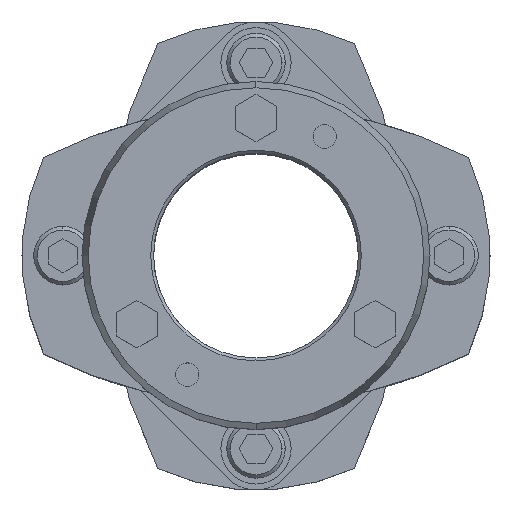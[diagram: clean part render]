
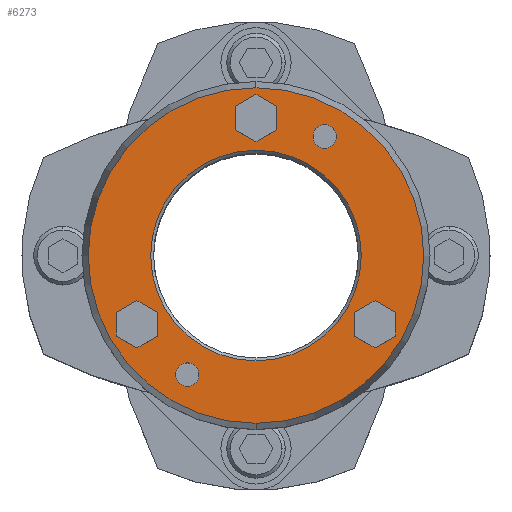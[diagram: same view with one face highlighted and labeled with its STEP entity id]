
A CAD part, top view. The second image highlights one B-rep face of the part: STEP entity #6273.
In plain terms, the highlighted planar face has unit normal (0, 0, 1).
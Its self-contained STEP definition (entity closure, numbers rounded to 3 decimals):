
#1695=CARTESIAN_POINT('',(0.,18.,45.25));
#1696=VERTEX_POINT('',#1695);
#1712=CARTESIAN_POINT('',(0.,-18.,45.25));
#1713=VERTEX_POINT('',#1712);
#1720=CARTESIAN_POINT('',(0.,0.,45.25));
#1721=DIRECTION('',(0.0,0.0,1.0));
#1722=DIRECTION('',(0.,1.0,0.0));
#1723=AXIS2_PLACEMENT_3D('',#1720,#1721,#1722);
#1724=CIRCLE('',#1723,18.0);
#1725=EDGE_CURVE('',#1713,#1696,#1724,.T.);
#1883=CARTESIAN_POINT('',(0.,-28.678,45.25));
#1884=VERTEX_POINT('',#1883);
#1891=CARTESIAN_POINT('',(0.,28.678,45.25));
#1892=VERTEX_POINT('',#1891);
#1893=CARTESIAN_POINT('',(0.,0.,45.25));
#1894=DIRECTION('',(0.0,0.0,-1.0));
#1895=DIRECTION('',(0.,-1.0,0.0));
#1896=AXIS2_PLACEMENT_3D('',#1893,#1894,#1895);
#1897=CIRCLE('',#1896,28.678);
#1898=EDGE_CURVE('',#1884,#1892,#1897,.T.);
#2011=CARTESIAN_POINT('',(-11.75,-18.352,45.25));
#2012=VERTEX_POINT('',#2011);
#2028=CARTESIAN_POINT('',(-11.75,-22.352,45.25));
#2029=VERTEX_POINT('',#2028);
#2036=CARTESIAN_POINT('',(-11.75,-20.352,45.25));
#2037=DIRECTION('',(0.0,0.0,-1.0));
#2038=DIRECTION('',(0.,1.0,0.0));
#2039=AXIS2_PLACEMENT_3D('',#2036,#2037,#2038);
#2040=CIRCLE('',#2039,2.0);
#2041=EDGE_CURVE('',#2012,#2029,#2040,.T.);
#2053=CARTESIAN_POINT('',(11.75,22.352,45.25));
#2054=VERTEX_POINT('',#2053);
#2070=CARTESIAN_POINT('',(11.75,18.352,45.25));
#2071=VERTEX_POINT('',#2070);
#2078=CARTESIAN_POINT('',(11.75,20.352,45.25));
#2079=DIRECTION('',(0.0,0.0,-1.0));
#2080=DIRECTION('',(0.,1.0,0.0));
#2081=AXIS2_PLACEMENT_3D('',#2078,#2079,#2080);
#2082=CIRCLE('',#2081,2.0);
#2083=EDGE_CURVE('',#2054,#2071,#2082,.T.);
#5286=CARTESIAN_POINT('',(11.75,20.352,45.25));
#5287=DIRECTION('',(0.0,0.0,-1.0));
#5288=DIRECTION('',(0.,1.0,0.0));
#5289=AXIS2_PLACEMENT_3D('',#5286,#5287,#5288);
#5290=CIRCLE('',#5289,2.0);
#5291=EDGE_CURVE('',#2071,#2054,#5290,.T.);
#5320=CARTESIAN_POINT('',(-11.75,-20.352,45.25));
#5321=DIRECTION('',(0.0,0.0,-1.0));
#5322=DIRECTION('',(0.,1.0,0.0));
#5323=AXIS2_PLACEMENT_3D('',#5320,#5321,#5322);
#5324=CIRCLE('',#5323,2.0);
#5325=EDGE_CURVE('',#2029,#2012,#5324,.T.);
#5363=CARTESIAN_POINT('',(0.,27.541,45.25));
#5364=VERTEX_POINT('',#5363);
#5371=CARTESIAN_POINT('',(-3.5,25.521,45.25));
#5372=VERTEX_POINT('',#5371);
#5373=CARTESIAN_POINT('',(-3.5,25.521,45.25));
#5374=DIRECTION('',(0.866,0.5,0.0));
#5375=VECTOR('',#5374,4.041);
#5376=LINE('',#5373,#5375);
#5377=EDGE_CURVE('',#5372,#5364,#5376,.T.);
#5401=CARTESIAN_POINT('',(3.5,25.521,45.25));
#5402=VERTEX_POINT('',#5401);
#5409=CARTESIAN_POINT('',(0.,27.541,45.25));
#5410=DIRECTION('',(0.866,-0.5,0.0));
#5411=VECTOR('',#5410,4.041);
#5412=LINE('',#5409,#5411);
#5413=EDGE_CURVE('',#5364,#5402,#5412,.T.);
#5432=CARTESIAN_POINT('',(3.5,21.479,45.25));
#5433=VERTEX_POINT('',#5432);
#5440=CARTESIAN_POINT('',(3.5,25.521,45.25));
#5441=DIRECTION('',(0.,-1.0,0.0));
#5442=VECTOR('',#5441,4.041);
#5443=LINE('',#5440,#5442);
#5444=EDGE_CURVE('',#5402,#5433,#5443,.T.);
#5463=CARTESIAN_POINT('',(0.,19.459,45.25));
#5464=VERTEX_POINT('',#5463);
#5471=CARTESIAN_POINT('',(3.5,21.479,45.25));
#5472=DIRECTION('',(-0.866,-0.5,0.0));
#5473=VECTOR('',#5472,4.041);
#5474=LINE('',#5471,#5473);
#5475=EDGE_CURVE('',#5433,#5464,#5474,.T.);
#5494=CARTESIAN_POINT('',(-3.5,21.479,45.25));
#5495=VERTEX_POINT('',#5494);
#5502=CARTESIAN_POINT('',(0.,19.459,45.25));
#5503=DIRECTION('',(-0.866,0.5,0.0));
#5504=VECTOR('',#5503,4.041);
#5505=LINE('',#5502,#5504);
#5506=EDGE_CURVE('',#5464,#5495,#5505,.T.);
#5524=CARTESIAN_POINT('',(-3.5,21.479,45.25));
#5525=DIRECTION('',(0.,1.0,0.0));
#5526=VECTOR('',#5525,4.041);
#5527=LINE('',#5524,#5526);
#5528=EDGE_CURVE('',#5495,#5372,#5527,.T.);
#5563=CARTESIAN_POINT('',(20.352,-7.709,45.25));
#5564=VERTEX_POINT('',#5563);
#5571=CARTESIAN_POINT('',(16.852,-9.729,45.25));
#5572=VERTEX_POINT('',#5571);
#5573=CARTESIAN_POINT('',(16.852,-9.729,45.25));
#5574=DIRECTION('',(0.866,0.5,0.0));
#5575=VECTOR('',#5574,4.041);
#5576=LINE('',#5573,#5575);
#5577=EDGE_CURVE('',#5572,#5564,#5576,.T.);
#5601=CARTESIAN_POINT('',(23.852,-9.729,45.25));
#5602=VERTEX_POINT('',#5601);
#5609=CARTESIAN_POINT('',(20.352,-7.709,45.25));
#5610=DIRECTION('',(0.866,-0.5,0.0));
#5611=VECTOR('',#5610,4.041);
#5612=LINE('',#5609,#5611);
#5613=EDGE_CURVE('',#5564,#5602,#5612,.T.);
#5632=CARTESIAN_POINT('',(23.852,-13.771,45.25));
#5633=VERTEX_POINT('',#5632);
#5640=CARTESIAN_POINT('',(23.852,-9.729,45.25));
#5641=DIRECTION('',(0.,-1.0,0.0));
#5642=VECTOR('',#5641,4.041);
#5643=LINE('',#5640,#5642);
#5644=EDGE_CURVE('',#5602,#5633,#5643,.T.);
#5663=CARTESIAN_POINT('',(20.352,-15.791,45.25));
#5664=VERTEX_POINT('',#5663);
#5671=CARTESIAN_POINT('',(23.852,-13.771,45.25));
#5672=DIRECTION('',(-0.866,-0.5,0.0));
#5673=VECTOR('',#5672,4.041);
#5674=LINE('',#5671,#5673);
#5675=EDGE_CURVE('',#5633,#5664,#5674,.T.);
#5694=CARTESIAN_POINT('',(16.852,-13.771,45.25));
#5695=VERTEX_POINT('',#5694);
#5702=CARTESIAN_POINT('',(20.352,-15.791,45.25));
#5703=DIRECTION('',(-0.866,0.5,0.0));
#5704=VECTOR('',#5703,4.041);
#5705=LINE('',#5702,#5704);
#5706=EDGE_CURVE('',#5664,#5695,#5705,.T.);
#5724=CARTESIAN_POINT('',(16.852,-13.771,45.25));
#5725=DIRECTION('',(0.,1.0,0.0));
#5726=VECTOR('',#5725,4.041);
#5727=LINE('',#5724,#5726);
#5728=EDGE_CURVE('',#5695,#5572,#5727,.T.);
#5763=CARTESIAN_POINT('',(-20.352,-7.709,45.25));
#5764=VERTEX_POINT('',#5763);
#5771=CARTESIAN_POINT('',(-23.852,-9.729,45.25));
#5772=VERTEX_POINT('',#5771);
#5773=CARTESIAN_POINT('',(-23.852,-9.729,45.25));
#5774=DIRECTION('',(0.866,0.5,0.0));
#5775=VECTOR('',#5774,4.041);
#5776=LINE('',#5773,#5775);
#5777=EDGE_CURVE('',#5772,#5764,#5776,.T.);
#5801=CARTESIAN_POINT('',(-16.852,-9.729,45.25));
#5802=VERTEX_POINT('',#5801);
#5809=CARTESIAN_POINT('',(-20.352,-7.709,45.25));
#5810=DIRECTION('',(0.866,-0.5,0.0));
#5811=VECTOR('',#5810,4.041);
#5812=LINE('',#5809,#5811);
#5813=EDGE_CURVE('',#5764,#5802,#5812,.T.);
#5832=CARTESIAN_POINT('',(-16.852,-13.771,45.25));
#5833=VERTEX_POINT('',#5832);
#5840=CARTESIAN_POINT('',(-16.852,-9.729,45.25));
#5841=DIRECTION('',(0.,-1.0,0.0));
#5842=VECTOR('',#5841,4.041);
#5843=LINE('',#5840,#5842);
#5844=EDGE_CURVE('',#5802,#5833,#5843,.T.);
#5863=CARTESIAN_POINT('',(-20.352,-15.791,45.25));
#5864=VERTEX_POINT('',#5863);
#5871=CARTESIAN_POINT('',(-16.852,-13.771,45.25));
#5872=DIRECTION('',(-0.866,-0.5,0.0));
#5873=VECTOR('',#5872,4.041);
#5874=LINE('',#5871,#5873);
#5875=EDGE_CURVE('',#5833,#5864,#5874,.T.);
#5894=CARTESIAN_POINT('',(-23.852,-13.771,45.25));
#5895=VERTEX_POINT('',#5894);
#5902=CARTESIAN_POINT('',(-20.352,-15.791,45.25));
#5903=DIRECTION('',(-0.866,0.5,0.0));
#5904=VECTOR('',#5903,4.041);
#5905=LINE('',#5902,#5904);
#5906=EDGE_CURVE('',#5864,#5895,#5905,.T.);
#5924=CARTESIAN_POINT('',(-23.852,-13.771,45.25));
#5925=DIRECTION('',(0.,1.0,0.0));
#5926=VECTOR('',#5925,4.041);
#5927=LINE('',#5924,#5926);
#5928=EDGE_CURVE('',#5895,#5772,#5927,.T.);
#6212=CARTESIAN_POINT('',(0.,0.,45.25));
#6213=DIRECTION('',(0.0,0.0,-1.0));
#6214=DIRECTION('',(0.,-1.0,0.0));
#6215=AXIS2_PLACEMENT_3D('',#6212,#6213,#6214);
#6216=CIRCLE('',#6215,28.678);
#6217=EDGE_CURVE('',#1892,#1884,#6216,.T.);
#6222=CARTESIAN_POINT('',(0.,2.364,45.25));
#6223=DIRECTION('',(0.0,0.0,1.0));
#6224=DIRECTION('',(0.,1.0,0.0));
#6225=AXIS2_PLACEMENT_3D('',#6222,#6223,#6224);
#6226=PLANE('',#6225);
#6227=ORIENTED_EDGE('',*,*,#6217,.F.);
#6228=ORIENTED_EDGE('',*,*,#1898,.F.);
#6229=EDGE_LOOP('',(#6227,#6228));
#6230=FACE_OUTER_BOUND('',#6229,.T.);
#6231=ORIENTED_EDGE('',*,*,#2083,.T.);
#6232=ORIENTED_EDGE('',*,*,#5291,.T.);
#6233=EDGE_LOOP('',(#6231,#6232));
#6234=FACE_BOUND('',#6233,.T.);
#6235=ORIENTED_EDGE('',*,*,#2041,.T.);
#6236=ORIENTED_EDGE('',*,*,#5325,.T.);
#6237=EDGE_LOOP('',(#6235,#6236));
#6238=FACE_BOUND('',#6237,.T.);
#6239=ORIENTED_EDGE('',*,*,#5377,.T.);
#6240=ORIENTED_EDGE('',*,*,#5413,.T.);
#6241=ORIENTED_EDGE('',*,*,#5444,.T.);
#6242=ORIENTED_EDGE('',*,*,#5475,.T.);
#6243=ORIENTED_EDGE('',*,*,#5506,.T.);
#6244=ORIENTED_EDGE('',*,*,#5528,.T.);
#6245=EDGE_LOOP('',(#6239,#6240,#6241,#6242,#6243,#6244));
#6246=FACE_BOUND('',#6245,.T.);
#6247=ORIENTED_EDGE('',*,*,#5577,.T.);
#6248=ORIENTED_EDGE('',*,*,#5613,.T.);
#6249=ORIENTED_EDGE('',*,*,#5644,.T.);
#6250=ORIENTED_EDGE('',*,*,#5675,.T.);
#6251=ORIENTED_EDGE('',*,*,#5706,.T.);
#6252=ORIENTED_EDGE('',*,*,#5728,.T.);
#6253=EDGE_LOOP('',(#6247,#6248,#6249,#6250,#6251,#6252));
#6254=FACE_BOUND('',#6253,.T.);
#6255=ORIENTED_EDGE('',*,*,#5777,.T.);
#6256=ORIENTED_EDGE('',*,*,#5813,.T.);
#6257=ORIENTED_EDGE('',*,*,#5844,.T.);
#6258=ORIENTED_EDGE('',*,*,#5875,.T.);
#6259=ORIENTED_EDGE('',*,*,#5906,.T.);
#6260=ORIENTED_EDGE('',*,*,#5928,.T.);
#6261=EDGE_LOOP('',(#6255,#6256,#6257,#6258,#6259,#6260));
#6262=FACE_BOUND('',#6261,.T.);
#6263=ORIENTED_EDGE('',*,*,#1725,.F.);
#6264=CARTESIAN_POINT('',(0.,0.,45.25));
#6265=DIRECTION('',(0.0,0.0,1.0));
#6266=DIRECTION('',(0.,1.0,0.0));
#6267=AXIS2_PLACEMENT_3D('',#6264,#6265,#6266);
#6268=CIRCLE('',#6267,18.0);
#6269=EDGE_CURVE('',#1696,#1713,#6268,.T.);
#6270=ORIENTED_EDGE('',*,*,#6269,.F.);
#6271=EDGE_LOOP('',(#6263,#6270));
#6272=FACE_BOUND('',#6271,.T.);
#6273=ADVANCED_FACE('',(#6230,#6234,#6238,#6246,#6254,#6262,#6272),#6226,.T.);
